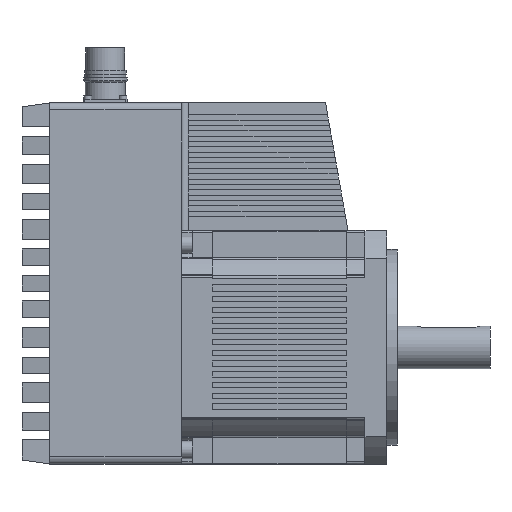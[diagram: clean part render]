
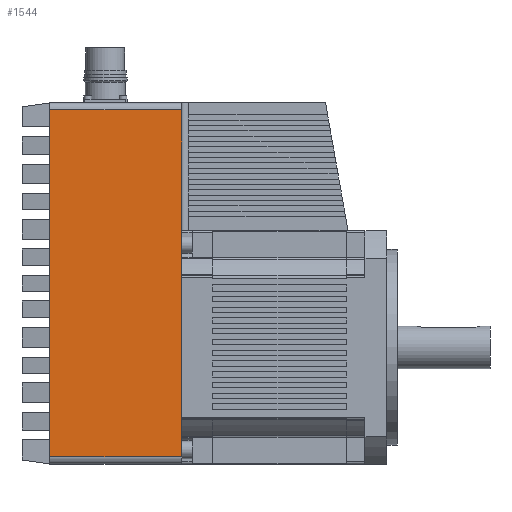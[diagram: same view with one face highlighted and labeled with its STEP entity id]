
A CAD part, left-side view. The second image highlights one B-rep face of the part: STEP entity #1544.
In plain terms, the highlighted planar face has unit normal (-1, 0, 0).
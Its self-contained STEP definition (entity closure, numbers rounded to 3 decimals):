
#1544 = ADVANCED_FACE( '', ( #4180 ), #4181, .T. );
#4180 = FACE_OUTER_BOUND( '', #8189, .T. );
#4181 = PLANE( '', #8190 );
#8189 = EDGE_LOOP( '', ( #12901, #12902, #12903, #12904, #12905, #12906 ) );
#8190 = AXIS2_PLACEMENT_3D( '', #12907, #12908, #12909 );
#12901 = ORIENTED_EDGE( '', *, *, #22944, .F. );
#12902 = ORIENTED_EDGE( '', *, *, #22945, .T. );
#12903 = ORIENTED_EDGE( '', *, *, #22946, .F. );
#12904 = ORIENTED_EDGE( '', *, *, #22947, .T. );
#12905 = ORIENTED_EDGE( '', *, *, #22948, .F. );
#12906 = ORIENTED_EDGE( '', *, *, #22949, .F. );
#12907 = CARTESIAN_POINT( '', ( -84.621, 189.6, 121.111 ) );
#12908 = DIRECTION( '', ( -1., 0., 0. ) );
#12909 = DIRECTION( '', ( 0., 0., 1. ) );
#22944 = EDGE_CURVE( '', #27502, #27503, #27504, .T. );
#22945 = EDGE_CURVE( '', #27502, #27505, #27506, .F. );
#22946 = EDGE_CURVE( '', #27507, #27505, #27508, .T. );
#22947 = EDGE_CURVE( '', #27507, #27509, #27510, .T. );
#22948 = EDGE_CURVE( '', #27511, #27509, #27512, .T. );
#22949 = EDGE_CURVE( '', #27503, #27511, #27513, .T. );
#27502 = VERTEX_POINT( '', #33917 );
#27503 = VERTEX_POINT( '', #33918 );
#27504 = LINE( '', #33919, #33920 );
#27505 = VERTEX_POINT( '', #33921 );
#27506 = LINE( '', #33922, #33923 );
#27507 = VERTEX_POINT( '', #33924 );
#27508 = LINE( '', #33925, #33926 );
#27509 = VERTEX_POINT( '', #33927 );
#27510 = LINE( '', #33928, #33929 );
#27511 = VERTEX_POINT( '', #33930 );
#27512 = LINE( '', #33931, #33932 );
#27513 = LINE( '', #33933, #33934 );
#33917 = CARTESIAN_POINT( '', ( -84.621, 173.6, 117.111 ) );
#33918 = CARTESIAN_POINT( '', ( -84.621, 173.6, 23.553 ) );
#33919 = CARTESIAN_POINT( '', ( -84.621, 173.6, 121.111 ) );
#33920 = VECTOR( '', #41373, 1000. );
#33921 = CARTESIAN_POINT( '', ( -84.621, 247.7, 117.111 ) );
#33922 = CARTESIAN_POINT( '', ( -84.621, 189.6, 117.111 ) );
#33923 = VECTOR( '', #41374, 1000. );
#33924 = CARTESIAN_POINT( '', ( -84.621, 247.7, -77.789 ) );
#33925 = CARTESIAN_POINT( '', ( -84.621, 247.7, 121.011 ) );
#33926 = VECTOR( '', #41375, 1000. );
#33927 = CARTESIAN_POINT( '', ( -84.621, 173.6, -77.789 ) );
#33928 = CARTESIAN_POINT( '', ( -84.621, 173.6, -77.789 ) );
#33929 = VECTOR( '', #41376, 1000. );
#33930 = CARTESIAN_POINT( '', ( -84.621, 173.6, -56.383 ) );
#33931 = CARTESIAN_POINT( '', ( -84.621, 173.6, 121.111 ) );
#33932 = VECTOR( '', #41377, 1000. );
#33933 = CARTESIAN_POINT( '', ( -84.621, 173.6, 121.111 ) );
#33934 = VECTOR( '', #41378, 1000. );
#41373 = DIRECTION( '', ( 0., 0., -1. ) );
#41374 = DIRECTION( '', ( 0., -1., 0. ) );
#41375 = DIRECTION( '', ( 0., 0., 1. ) );
#41376 = DIRECTION( '', ( 0., -1., 0. ) );
#41377 = DIRECTION( '', ( 0., 0., -1. ) );
#41378 = DIRECTION( '', ( 0., 0., -1. ) );
